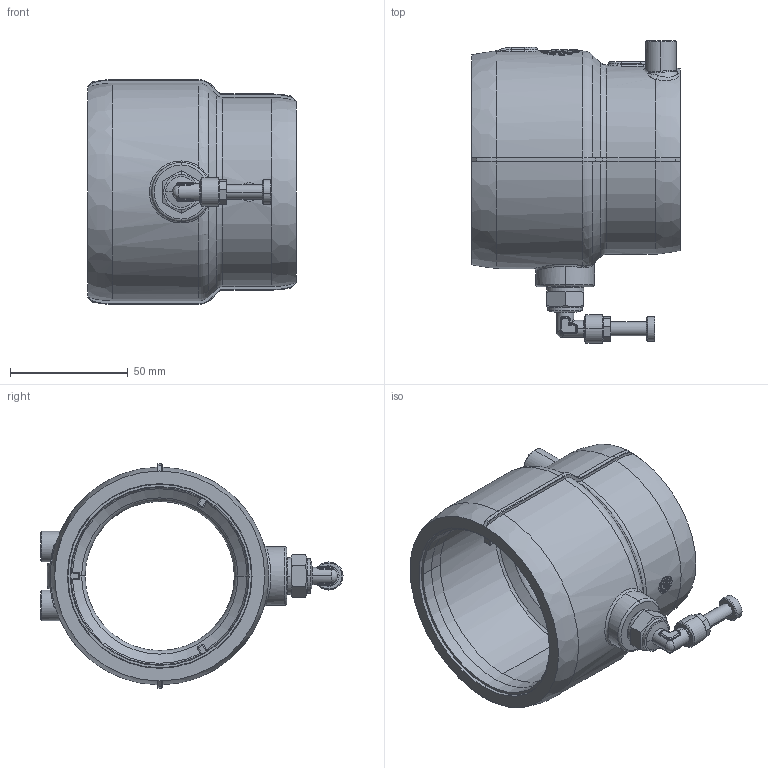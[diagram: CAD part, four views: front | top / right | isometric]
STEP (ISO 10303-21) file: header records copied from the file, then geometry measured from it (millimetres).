
FILE_DESCRIPTION (( 'STEP AP203' ), '1' );
FILE_NAME ('KP_T75-63SC2A.STEP', '2012-01-18T11:51:18', ( '' ), ( '' ), 'SwSTEP 2.0', 'SolidWorks 2012', '' );
FILE_SCHEMA (( 'CONFIG_CONTROL_DESIGN' ));
Length unit declared in the file: millimetre
Products named in the file (1): KP_T75-63SC2A
Bounding box: 88.74 x 128.51 x 95.6 mm (x, y, z)
Volume: 200699.7 mm3; surface area: 55347.8 mm2
Topology: 1 solids, 8 shells, 976 faces, 2435 edges, 1540 vertices
Faces by surface type: plane 371, bspline 282, cylinder 199, cone 68, torus 42, sphere 14
Entity records: 41501 total; most frequent: CARTESIAN_POINT 21044, ORIENTED_EDGE 4850, DIRECTION 3367, EDGE_CURVE 2425, VERTEX_POINT 1538, AXIS2_PLACEMENT_3D 1219, EDGE_LOOP 1065, ADVANCED_FACE 976
